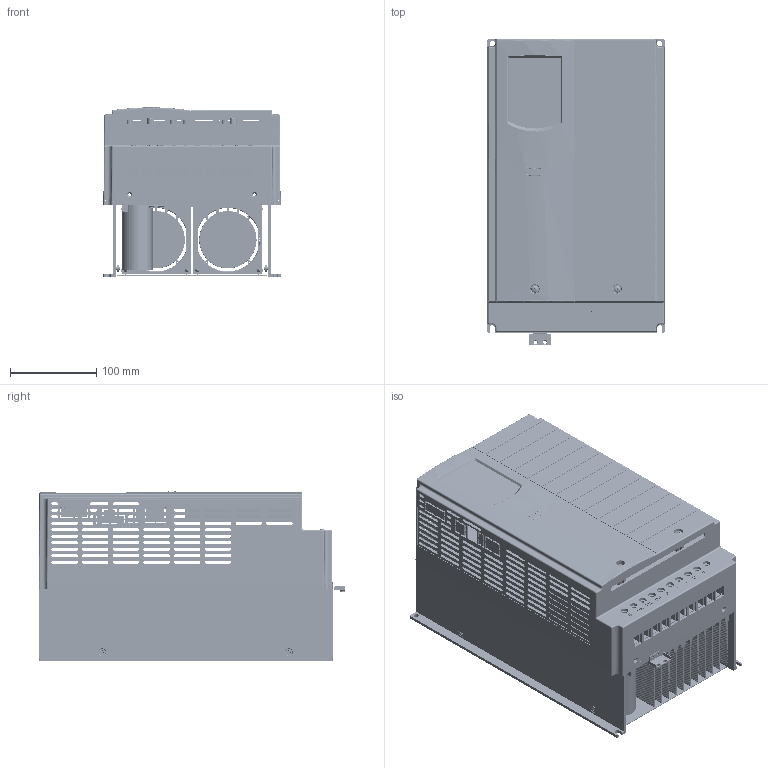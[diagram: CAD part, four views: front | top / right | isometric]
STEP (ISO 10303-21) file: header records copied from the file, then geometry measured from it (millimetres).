
FILE_DESCRIPTION((''),'2;1');
FILE_NAME('ASM0002_ASM','2015-09-06T',('Administrator'),(''),'PRO/ENGINEER BY PARAMETRIC TECHNOLOGY CORPORATION, 2012230','PRO/ENGINEER BY PARAMETRIC TECHNOLOGY CORPORATION, 2012230','');
FILE_SCHEMA(('CONFIG_CONTROL_DESIGN'));
Products named in the file (15): 8025; FENGDAODANGBAN; GONGLVDZ; SHANGGAI_E6B02-0601; MIANMO; TOP-LITTLE; E-PLATE; M4X8; FENG_JI_ZHAO70; M4X8CT; ST4_8X9_5; M4X12; E6T01-0101; DIANRONGBAN2; ASM0002_ASM
Assembly tree (39 placements, depth 2):
  ASM0002_ASM
    8025  x2
    FENGDAODANGBAN
    GONGLVDZ  x10
    SHANGGAI_E6B02-0601
    MIANMO
    TOP-LITTLE
    E-PLATE
    M4X8  x4
    FENG_JI_ZHAO70  x2
    M4X8CT  x4
    ST4_8X9_5  x8
    M4X12  x2
    E6T01-0101
    DIANRONGBAN2
Bounding box: 205 x 355.17 x 196.5 mm (x, y, z)
Volume: 2592950.7 mm3; surface area: 1549957.3 mm2
Topology: 53 solids, 53 shells, 5710 faces, 16268 edges, 10793 vertices
Faces by surface type: cylinder 2595, plane 2526, torus 188, extrusion 181, bspline 105, cone 71, sphere 44
Entity records: 166632 total; most frequent: CARTESIAN_POINT 40767, ORIENTED_EDGE 27300, DIRECTION 25054, EDGE_CURVE 13650, VERTEX_POINT 9118, AXIS2_PLACEMENT_3D 8647, VECTOR 7760, LINE 7579
